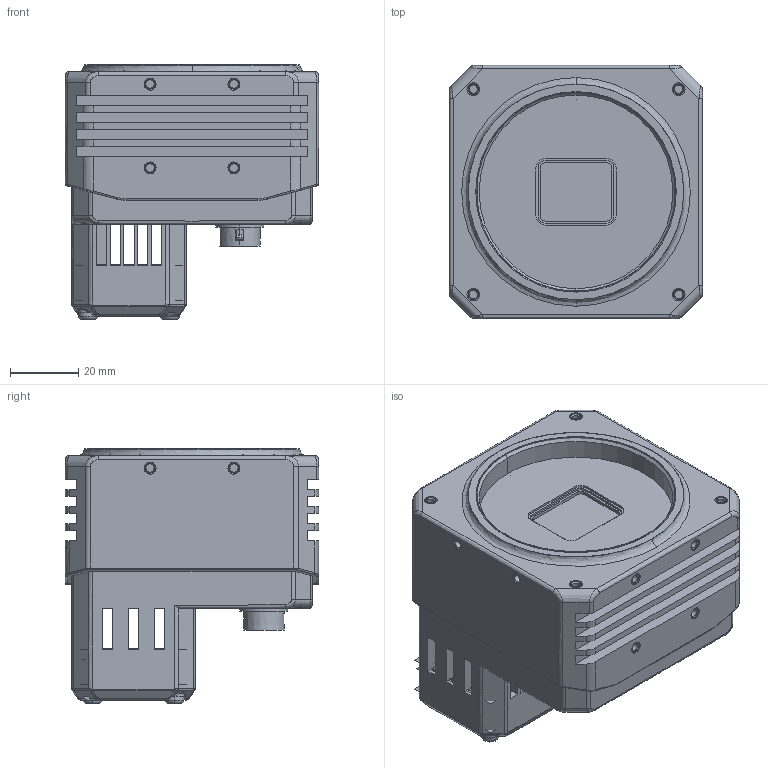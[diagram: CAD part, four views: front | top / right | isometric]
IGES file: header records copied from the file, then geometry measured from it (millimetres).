
Start section:  PTC IGES file: 1200_m580001.igs
Global section: file name: 1200_m580001.igs; native system: Creo Parametric by PTC Inc.; preprocessor: 2017260; author: wangyijun6; organization: Unknown; date: 20190817.133347; units: millimetre
Bounding box: 74 x 74 x 74.56 mm (x, y, z)
Volume: 224850.1 mm3; surface area: 90402.1 mm2
Topology: 2 solids, 55 shells, 3684 faces, 15348 edges, 16582 vertices
Faces by surface type: bspline 2161, revolution 1339, extrusion 184
